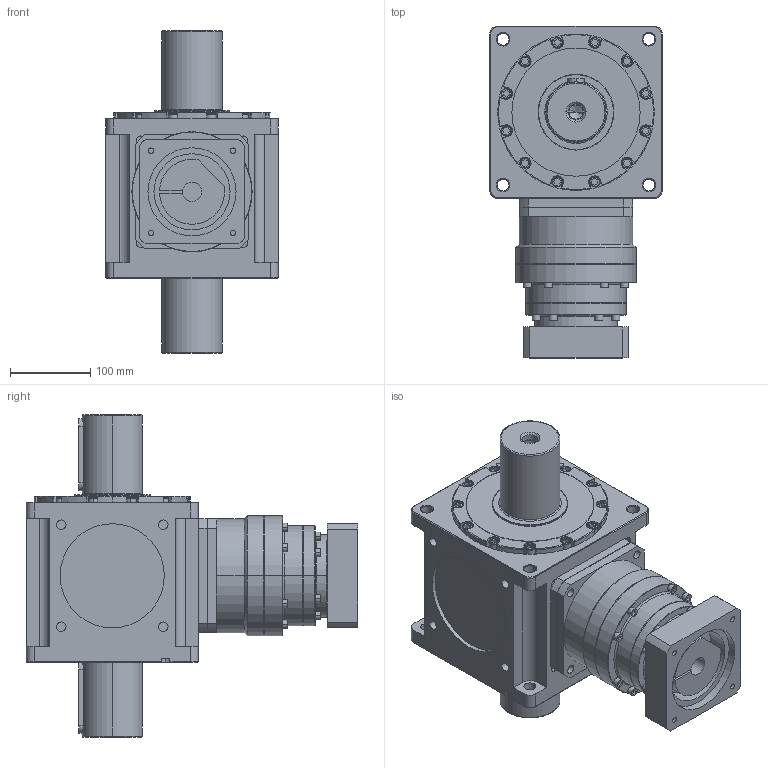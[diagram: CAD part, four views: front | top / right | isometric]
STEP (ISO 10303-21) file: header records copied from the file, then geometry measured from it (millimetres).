
FILE_DESCRIPTION (( 'STEP AP214' ), '1' );
FILE_NAME ('CCW215A-L2(24-200)-2P 24-110-145-M8.STEP', '2025-06-02T06:26:31', ( '微软用户' ), ( '微软中国' ), 'SwSTEP 2.0', 'SolidWorks 2024', '' );
FILE_SCHEMA (( 'AUTOMOTIVE_DESIGN' ));
Length unit declared in the file: millimetre
Products named in the file (4): CCW215A-002-2P箱体; VRB-142-L2-S2-P1 24-110-145-M8; CCW215A-L2(24-200)-2P 24-110-145-M8; CCW215A行星垫板
Assembly tree (3 placements, depth 2):
  CCW215A-L2(24-200)-2P 24-110-145-M8
    VRB-142-L2-S2-P1 24-110-145-M8
    CCW215A-002-2P箱体
    CCW215A行星垫板
Bounding box: 215 x 414 x 402.5 mm (x, y, z)
Volume: 12276956.5 mm3; surface area: 579476.4 mm2
Topology: 3 solids, 3 shells, 888 faces, 2151 edges, 1351 vertices
Faces by surface type: plane 404, cylinder 319, torus 75, cone 66, bspline 24
Entity records: 27238 total; most frequent: CARTESIAN_POINT 5771, DIRECTION 4711, ORIENTED_EDGE 4290, EDGE_CURVE 2145, AXIS2_PLACEMENT_3D 1771, VERTEX_POINT 1351, VECTOR 1169, LINE 1169
